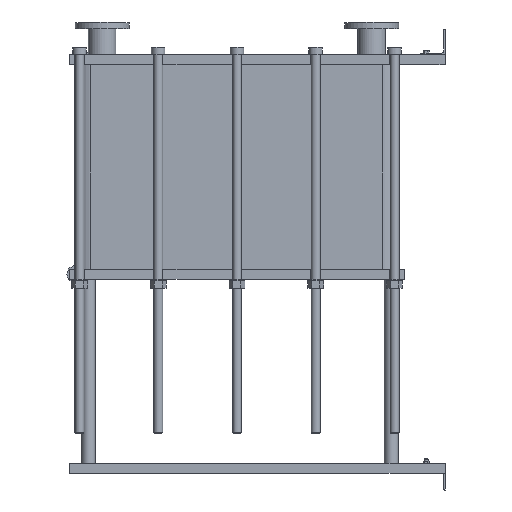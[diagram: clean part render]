
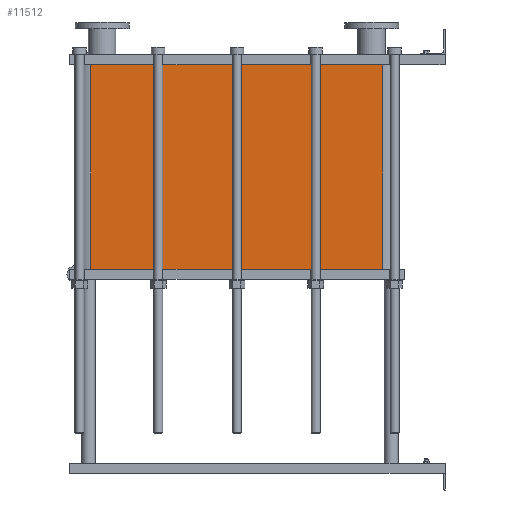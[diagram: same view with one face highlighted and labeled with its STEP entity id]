
A CAD part, left-side view. The second image highlights one B-rep face of the part: STEP entity #11512.
In plain terms, the highlighted planar face has unit normal (-1, 0, 0).
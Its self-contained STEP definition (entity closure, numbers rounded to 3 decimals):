
#1129=LINE('',#23232,#2102);
#1130=LINE('',#23236,#2103);
#1131=LINE('',#23238,#2104);
#1132=LINE('',#23239,#2105);
#2102=VECTOR('',#15887,10.);
#2103=VECTOR('',#15892,10.);
#2104=VECTOR('',#15893,10.);
#2105=VECTOR('',#15894,10.);
#3267=FACE_OUTER_BOUND('',#4093,.T.);
#4093=EDGE_LOOP('',(#10103,#10104,#10105,#10106));
#5642=VERTEX_POINT('',#23229);
#5643=VERTEX_POINT('',#23231);
#5644=VERTEX_POINT('',#23235);
#5645=VERTEX_POINT('',#23237);
#7159=EDGE_CURVE('',#5643,#5642,#1129,.T.);
#7161=EDGE_CURVE('',#5642,#5644,#1130,.T.);
#7162=EDGE_CURVE('',#5645,#5644,#1131,.T.);
#7163=EDGE_CURVE('',#5645,#5643,#1132,.T.);
#10103=ORIENTED_EDGE('',*,*,#7161,.T.);
#10104=ORIENTED_EDGE('',*,*,#7162,.F.);
#10105=ORIENTED_EDGE('',*,*,#7163,.T.);
#10106=ORIENTED_EDGE('',*,*,#7159,.T.);
#10857=PLANE('',#12751);
#11512=ADVANCED_FACE('',(#3267),#10857,.T.);
#12751=AXIS2_PLACEMENT_3D('',#23234,#15890,#15891);
#15887=DIRECTION('',(0.,0.,-1.));
#15890=DIRECTION('center_axis',(-1.,0.,0.));
#15891=DIRECTION('ref_axis',(0.,1.,0.));
#15892=DIRECTION('',(0.,-1.,0.));
#15893=DIRECTION('',(0.,0.,-1.));
#15894=DIRECTION('',(0.,1.,0.));
#23229=CARTESIAN_POINT('',(-200.,1414.,-817.65));
#23231=CARTESIAN_POINT('',(-200.,1414.,0.));
#23232=CARTESIAN_POINT('',(-200.,1414.,0.));
#23234=CARTESIAN_POINT('Origin',(-200.,248.,0.));
#23235=CARTESIAN_POINT('',(-200.,248.,-817.65));
#23236=CARTESIAN_POINT('',(-200.,539.5,-817.65));
#23237=CARTESIAN_POINT('',(-200.,248.,0.));
#23238=CARTESIAN_POINT('',(-200.,248.,0.));
#23239=CARTESIAN_POINT('',(-200.,248.,0.));
